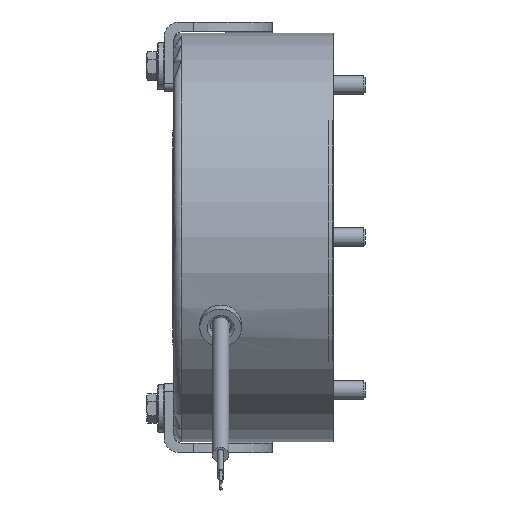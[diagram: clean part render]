
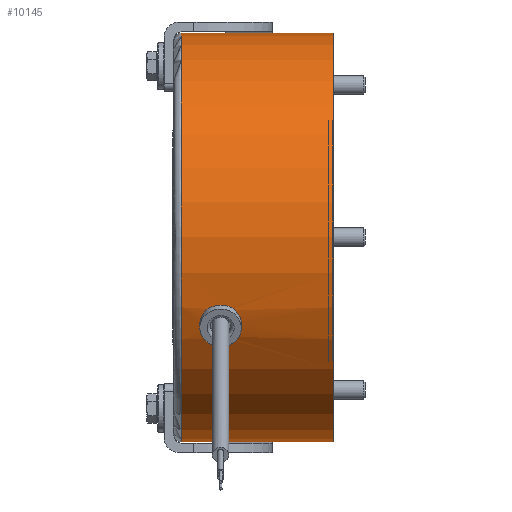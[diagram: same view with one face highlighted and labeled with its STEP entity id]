
A CAD part, front view. The second image highlights one B-rep face of the part: STEP entity #10145.
In plain terms, the highlighted cylindrical face has radius 65 mm (diameter 130 mm), a full revolution.
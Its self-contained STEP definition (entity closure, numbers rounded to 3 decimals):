
#225=B_SPLINE_CURVE_WITH_KNOTS('',3,(#17038,#17039,#17040,#17041,#17042,
#17043,#17044,#17045,#17046,#17047,#17048,#17049,#17050,#17051,#17052,#17053,
#17054,#17055),.UNSPECIFIED.,.F.,.F.,(4,2,2,2,2,2,2,2,4),(0.767,
0.959,1.151,1.343,1.534,1.726,
1.918,2.109,2.301),.UNSPECIFIED.);
#226=B_SPLINE_CURVE_WITH_KNOTS('',3,(#17058,#17059,#17060,#17061,#17062,
#17063,#17064,#17065,#17066,#17067,#17068,#17069,#17070,#17071,#17072,#17073,
#17074,#17075,#17076),.UNSPECIFIED.,.F.,.F.,(4,2,2,2,3,2,2,2,4),(2.301,
2.493,2.685,2.877,3.068,3.26,
3.452,3.644,3.836),.UNSPECIFIED.);
#450=FACE_BOUND('',#1562,.T.);
#958=FACE_OUTER_BOUND('',#1561,.T.);
#1561=EDGE_LOOP('',(#7606,#7607,#7608,#7609,#7610,#7611,#7612));
#1562=EDGE_LOOP('',(#7613,#7614,#7615,#7616,#7617,#7618));
#2142=LINE('',#17028,#2678);
#2143=LINE('',#17036,#2679);
#2144=LINE('',#17057,#2680);
#2678=VECTOR('',#13258,65.);
#2679=VECTOR('',#13265,10.);
#2680=VECTOR('',#13266,10.);
#3308=CIRCLE('',#11099,65.);
#3309=CIRCLE('',#11100,65.);
#3310=CIRCLE('',#11101,65.);
#3311=CIRCLE('',#11102,65.);
#3312=CIRCLE('',#11103,65.);
#4134=VERTEX_POINT('',#17023);
#4135=VERTEX_POINT('',#17024);
#4136=VERTEX_POINT('',#17027);
#4137=VERTEX_POINT('',#17029);
#4138=VERTEX_POINT('',#17031);
#4139=VERTEX_POINT('',#17034);
#4140=VERTEX_POINT('',#17035);
#4141=VERTEX_POINT('',#17037);
#4142=VERTEX_POINT('',#17056);
#5378=EDGE_CURVE('',#4134,#4135,#3308,.T.);
#5379=EDGE_CURVE('',#4135,#4134,#3309,.T.);
#5380=EDGE_CURVE('',#4135,#4136,#2142,.T.);
#5381=EDGE_CURVE('',#4137,#4136,#3310,.T.);
#5382=EDGE_CURVE('',#4138,#4137,#3311,.T.);
#5383=EDGE_CURVE('',#4136,#4138,#3312,.T.);
#5384=EDGE_CURVE('',#4139,#4140,#2143,.T.);
#5385=EDGE_CURVE('',#4139,#4141,#225,.T.);
#5386=EDGE_CURVE('',#4142,#4141,#2144,.T.);
#5387=EDGE_CURVE('',#4141,#4139,#226,.T.);
#7606=ORIENTED_EDGE('',*,*,#5378,.F.);
#7607=ORIENTED_EDGE('',*,*,#5379,.F.);
#7608=ORIENTED_EDGE('',*,*,#5380,.T.);
#7609=ORIENTED_EDGE('',*,*,#5381,.F.);
#7610=ORIENTED_EDGE('',*,*,#5382,.F.);
#7611=ORIENTED_EDGE('',*,*,#5383,.F.);
#7612=ORIENTED_EDGE('',*,*,#5380,.F.);
#7613=ORIENTED_EDGE('',*,*,#5384,.T.);
#7614=ORIENTED_EDGE('',*,*,#5384,.F.);
#7615=ORIENTED_EDGE('',*,*,#5385,.T.);
#7616=ORIENTED_EDGE('',*,*,#5386,.F.);
#7617=ORIENTED_EDGE('',*,*,#5386,.T.);
#7618=ORIENTED_EDGE('',*,*,#5387,.T.);
#9142=CYLINDRICAL_SURFACE('',#11098,65.);
#10145=ADVANCED_FACE('',(#958,#450),#9142,.T.);
#11098=AXIS2_PLACEMENT_3D('',#17022,#13252,#13253);
#11099=AXIS2_PLACEMENT_3D('',#17025,#13254,#13255);
#11100=AXIS2_PLACEMENT_3D('',#17026,#13256,#13257);
#11101=AXIS2_PLACEMENT_3D('',#17030,#13259,#13260);
#11102=AXIS2_PLACEMENT_3D('',#17032,#13261,#13262);
#11103=AXIS2_PLACEMENT_3D('',#17033,#13263,#13264);
#13252=DIRECTION('center_axis',(1.,0.,0.));
#13253=DIRECTION('ref_axis',(0.,1.,0.));
#13254=DIRECTION('center_axis',(1.,0.,0.));
#13255=DIRECTION('ref_axis',(0.,1.,0.));
#13256=DIRECTION('center_axis',(1.,0.,0.));
#13257=DIRECTION('ref_axis',(0.,1.,0.));
#13258=DIRECTION('',(-1.,0.,0.));
#13259=DIRECTION('center_axis',(-1.,0.,0.));
#13260=DIRECTION('ref_axis',(0.,-1.,0.));
#13261=DIRECTION('center_axis',(-1.,0.,0.));
#13262=DIRECTION('ref_axis',(0.,-1.,0.));
#13263=DIRECTION('center_axis',(-1.,0.,0.));
#13264=DIRECTION('ref_axis',(0.,-1.,0.));
#13265=DIRECTION('',(1.,0.,0.));
#13266=DIRECTION('',(1.,0.,0.));
#17022=CARTESIAN_POINT('Origin',(-25.425,0.,0.));
#17023=CARTESIAN_POINT('',(0.,65.,0.));
#17024=CARTESIAN_POINT('',(0.,-65.,0.));
#17025=CARTESIAN_POINT('Origin',(0.,0.,0.));
#17026=CARTESIAN_POINT('Origin',(0.,0.,0.));
#17027=CARTESIAN_POINT('',(-48.35,-65.,0.));
#17028=CARTESIAN_POINT('',(-25.425,-65.,0.));
#17029=CARTESIAN_POINT('',(-48.35,65.,0.));
#17030=CARTESIAN_POINT('Origin',(-48.35,0.,0.));
#17031=CARTESIAN_POINT('',(-48.35,0.,65.));
#17032=CARTESIAN_POINT('Origin',(-48.35,0.,0.));
#17033=CARTESIAN_POINT('Origin',(-48.35,0.,0.));
#17034=CARTESIAN_POINT('',(-30.75,-58.91,-27.47));
#17035=CARTESIAN_POINT('',(-29.25,-58.91,-27.47));
#17036=CARTESIAN_POINT('',(-25.425,-58.91,-27.47));
#17037=CARTESIAN_POINT('',(-40.95,-58.91,-27.47));
#17038=CARTESIAN_POINT('Ctrl Pts',(-30.75,-58.91,-27.47));
#17039=CARTESIAN_POINT('Ctrl Pts',(-30.75,-58.64,-28.05));
#17040=CARTESIAN_POINT('Ctrl Pts',(-30.879,-58.342,
-28.663));
#17041=CARTESIAN_POINT('Ctrl Pts',(-31.401,-57.779,
-29.783));
#17042=CARTESIAN_POINT('Ctrl Pts',(-31.795,-57.513,
-30.289));
#17043=CARTESIAN_POINT('Ctrl Pts',(-32.702,-57.088,-31.084));
#17044=CARTESIAN_POINT('Ctrl Pts',(-33.275,-56.899,
-31.426));
#17045=CARTESIAN_POINT('Ctrl Pts',(-34.529,-56.647,
-31.878));
#17046=CARTESIAN_POINT('Ctrl Pts',(-35.211,-56.584,
-31.988));
#17047=CARTESIAN_POINT('Ctrl Pts',(-36.489,-56.584,
-31.988));
#17048=CARTESIAN_POINT('Ctrl Pts',(-37.171,-56.647,
-31.878));
#17049=CARTESIAN_POINT('Ctrl Pts',(-38.425,-56.899,
-31.426));
#17050=CARTESIAN_POINT('Ctrl Pts',(-38.998,-57.088,
-31.084));
#17051=CARTESIAN_POINT('Ctrl Pts',(-39.905,-57.513,
-30.289));
#17052=CARTESIAN_POINT('Ctrl Pts',(-40.299,-57.779,
-29.783));
#17053=CARTESIAN_POINT('Ctrl Pts',(-40.821,-58.342,
-28.663));
#17054=CARTESIAN_POINT('Ctrl Pts',(-40.95,-58.64,-28.05));
#17055=CARTESIAN_POINT('Ctrl Pts',(-40.95,-58.91,-27.47));
#17056=CARTESIAN_POINT('',(-42.45,-58.91,-27.47));
#17057=CARTESIAN_POINT('',(-25.425,-58.91,-27.47));
#17058=CARTESIAN_POINT('Ctrl Pts',(-40.95,-58.91,-27.47));
#17059=CARTESIAN_POINT('Ctrl Pts',(-40.95,-59.18,-26.891));
#17060=CARTESIAN_POINT('Ctrl Pts',(-40.821,-59.459,
-26.268));
#17061=CARTESIAN_POINT('Ctrl Pts',(-40.299,-59.954,
-25.117));
#17062=CARTESIAN_POINT('Ctrl Pts',(-39.905,-60.172,
-24.588));
#17063=CARTESIAN_POINT('Ctrl Pts',(-38.998,-60.507,
-23.751));
#17064=CARTESIAN_POINT('Ctrl Pts',(-38.425,-60.647,
-23.387));
#17065=CARTESIAN_POINT('Ctrl Pts',(-37.171,-60.832,-22.903));
#17066=CARTESIAN_POINT('Ctrl Pts',(-36.489,-60.876,-22.784));
#17067=CARTESIAN_POINT('Ctrl Pts',(-35.85,-60.876,-22.784));
#17068=CARTESIAN_POINT('Ctrl Pts',(-35.211,-60.876,-22.784));
#17069=CARTESIAN_POINT('Ctrl Pts',(-34.529,-60.832,-22.903));
#17070=CARTESIAN_POINT('Ctrl Pts',(-33.275,-60.647,
-23.387));
#17071=CARTESIAN_POINT('Ctrl Pts',(-32.702,-60.507,-23.751));
#17072=CARTESIAN_POINT('Ctrl Pts',(-31.795,-60.172,
-24.588));
#17073=CARTESIAN_POINT('Ctrl Pts',(-31.401,-59.954,
-25.117));
#17074=CARTESIAN_POINT('Ctrl Pts',(-30.879,-59.459,-26.268));
#17075=CARTESIAN_POINT('Ctrl Pts',(-30.75,-59.18,-26.891));
#17076=CARTESIAN_POINT('Ctrl Pts',(-30.75,-58.91,-27.47));
